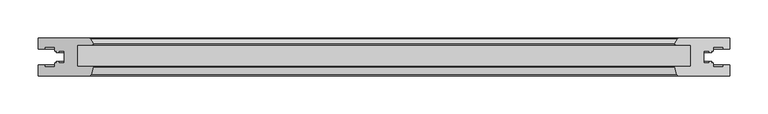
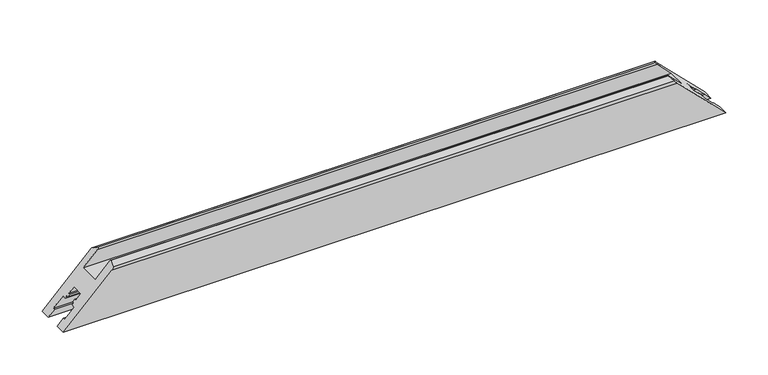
"""IFC4 building model written with IfcOpenShell, lengths in millimetres: proxy geometry, Weiku - Montante - Folha de correr 02.2.01.020 : Weiku - Montante - Folha de correr 02.2.01.020."""

from ifc_helpers import new_model, si_unit, frame, origin, place, context, project, spatial, ellipse_curve, source, transform, mapped, element, save
from ifc_brep_helpers import plane_surface, cylinder_surface, advanced_brep


def generic_models_05ec940b(model_context):
    return source(origin(), model_context, "Body", "AdvancedBrep", [
        advanced_brep(
        [(453.5, -50.0, 0.0), (387.0004942, -50.0, 66.4995058), (-387.0004942, -50.0, 66.4995058), (-453.5, -50.0, 0.0), (-453.5, -35.5, 0.0), (453.5, -35.5, 0.0), (-453.5, 0.0, 0.0), (-385.9879875, 0.0, 67.5120125), (385.9879875, 0.0, 67.5120125), (453.5, 0.0, 0.0), (-384.1027168, -47.7764571, 69.3972832), (-381.5177981, -38.1294095, 71.9822019), (-382.0007611, -37.5, 71.4992389), (-402.5007611, -37.5, 50.9992389), (-402.5007611, -9.5, 50.9992389), (-382.7141895, -9.5, 70.7858105), (-381.5520406, -7.617411, 71.9479594), (-385.0940268, -0.5518546, 68.4059732), (-453.5, -14.5, 0.0), (-444.9, -14.5, 8.6), (-444.9, -11.7, 8.6), (-431.7, -11.7, 21.8), (-431.7, -16.9, 21.8), (-429.3524152, -16.9, 24.1475848), (-429.5273926, -18.9, 23.9726074), (-426.7, -18.9, 26.8), (-426.7, -16.9, 26.8), (-419.5, -16.9, 34.0), (-419.5, -33.1, 34.0), (-426.7, -33.1, 26.8), (-426.7, -31.1, 26.8), (-429.5273926, -31.1, 23.9726074), (-429.3524152, -33.1, 24.1475848), (-431.7, -33.1, 21.8), (-431.7, -38.3, 21.8), (-444.9, -38.3, 8.6), (-444.9, -35.5, 8.6), (444.9, -35.5, 8.6), (444.9, -38.3, 8.6), (431.7, -38.3, 21.8), (431.7, -33.1, 21.8), (429.3524152, -33.1, 24.1475848), (429.5273926, -31.1, 23.9726074), (426.7, -31.1, 26.8), (426.7, -33.1, 26.8), (419.5, -33.1, 34.0), (419.5, -16.9, 34.0), (426.7, -16.9, 26.8), (426.7, -18.9, 26.8), (429.5273926, -18.9, 23.9726074), (429.3524152, -16.9, 24.1475848), (431.7, -16.9, 21.8), (431.7, -11.7, 21.8), (444.9, -11.7, 8.6), (444.9, -14.5, 8.6), (453.5, -14.5, 0.0), (385.0940268, -0.5518546, 68.4059732), (381.5520406, -7.617411, 71.9479594), (382.7141895, -9.5, 70.7858105), (402.5007611, -9.5, 50.9992389), (402.5007611, -37.5, 50.9992389), (382.0007611, -37.5, 71.4992389), (381.5177981, -38.1294095, 71.9822019), (384.1027168, -47.7764571, 69.3972832)],
        [
            (0, 1),
            (1, 2),
            (2, 3),
            (3, 0),
            (3, 4),
            (4, 5),
            (5, 0),
            (6, 7),
            (7, 8),
            (8, 9),
            (9, 6),
            (2, 10, ellipse_curve(frame((-387.0004942, -47.0, 66.4995058), z_axis=(-0.7071067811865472, 0.0, 0.7071067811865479), x_axis=(-0.7071067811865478, 0.0, -0.7071067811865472)), 4.2426407, 3.0)),
            (10, 11),
            (11, 12, ellipse_curve(frame((-382.0007611, -38.0, 71.4992389), z_axis=(-0.7071067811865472, 0.0, 0.7071067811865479), x_axis=(-0.7071067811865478, 0.0, -0.7071067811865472)), 0.7071068, 0.5)),
            (12, 13),
            (13, 14),
            (14, 15),
            (15, 16, ellipse_curve(frame((-382.7141895, -8.2, 70.7858105), z_axis=(-0.7071067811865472, 0.0, 0.7071067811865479), x_axis=(-0.7071067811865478, 0.0, -0.7071067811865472)), 1.8384776, 1.3)),
            (16, 17),
            (17, 7, ellipse_curve(frame((-385.9879875, -1.0, 67.5120125), z_axis=(-0.7071067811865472, 0.0, 0.7071067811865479), x_axis=(-0.7071067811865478, 0.0, -0.7071067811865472)), 1.4142136, 1.0)),
            (6, 18),
            (18, 19),
            (19, 20),
            (20, 21),
            (21, 22),
            (22, 23),
            (23, 24),
            (24, 25),
            (25, 26),
            (26, 27),
            (27, 28),
            (28, 29),
            (29, 30),
            (30, 31),
            (31, 32),
            (32, 33),
            (33, 34),
            (34, 35),
            (35, 36),
            (36, 4),
            (5, 37),
            (37, 38),
            (38, 39),
            (39, 40),
            (40, 41),
            (41, 42),
            (42, 43),
            (43, 44),
            (44, 45),
            (45, 46),
            (46, 47),
            (47, 48),
            (48, 49),
            (49, 50),
            (50, 51),
            (51, 52),
            (52, 53),
            (53, 54),
            (54, 55),
            (55, 9),
            (8, 56, ellipse_curve(frame((385.9879875, -1.0, 67.5120125), z_axis=(0.7071067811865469, 0.0, 0.7071067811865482), x_axis=(-0.707106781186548, 0.0, 0.7071067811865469)), 1.4142136, 1.0)),
            (56, 57),
            (57, 58, ellipse_curve(frame((382.7141895, -8.2, 70.7858105), z_axis=(0.7071067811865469, 0.0, 0.7071067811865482), x_axis=(-0.707106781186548, 0.0, 0.7071067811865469)), 1.8384776, 1.3)),
            (58, 59),
            (59, 60),
            (60, 61),
            (61, 62, ellipse_curve(frame((382.0007611, -38.0, 71.4992389), z_axis=(0.7071067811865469, 0.0, 0.7071067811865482), x_axis=(-0.707106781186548, 0.0, 0.7071067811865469)), 0.7071068, 0.5)),
            (62, 63),
            (63, 1, ellipse_curve(frame((387.0004942, -47.0, 66.4995058), z_axis=(0.7071067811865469, 0.0, 0.7071067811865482), x_axis=(-0.707106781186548, 0.0, 0.7071067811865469)), 4.2426407, 3.0)),
            (17, 56),
            (16, 57),
            (15, 58),
            (14, 59),
            (13, 60),
            (12, 61),
            (11, 62),
            (10, 63),
            (36, 37),
            (35, 38),
            (34, 39),
            (33, 40),
            (32, 41),
            (31, 42),
            (30, 43),
            (29, 44),
            (28, 45),
            (27, 46),
            (26, 47),
            (25, 48),
            (24, 49),
            (23, 50),
            (22, 51),
            (21, 52),
            (20, 53),
            (19, 54),
            (18, 55),
        ],
        [
            plane_surface(frame((-453.5, -50.0, 66.4995058), z_axis=(0.0, -1.0, 0.0), x_axis=(1.0, 0.0, 0.0))),
            plane_surface(frame((-453.5, -50.0, 0.0), z_axis=(0.0, 0.0, -1.0), x_axis=(1.0, 0.0, 0.0))),
            plane_surface(frame((-453.5, 0.0, 0.0), z_axis=(0.0, 1.0, 0.0), x_axis=(1.0, 0.0, 0.0))),
            plane_surface(frame((-481.7842712, 0.0, -28.2842712), z_axis=(-0.7071067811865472, 0.0, 0.7071067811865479), x_axis=(0.0, -1.0, 0.0))),
            plane_surface(frame((373.5, 0.0, 80.0), z_axis=(0.7071067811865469, 0.0, 0.7071067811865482), x_axis=(0.0, -1.0, 0.0))),
            cylinder_surface(frame((-453.5, -1.0, 67.5120125), z_axis=(-1.0, 0.0, 0.0), x_axis=(0.0, -1.0, 0.0)), 1.0),
            plane_surface(frame((-453.5, -0.5518546, 68.4059732), z_axis=(0.0, 0.4481453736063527, 0.8939606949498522), x_axis=(1.0, 0.0, 0.0))),
            cylinder_surface(frame((-453.5, -8.2, 70.7858105), z_axis=(-1.0, 0.0, 0.0), x_axis=(0.0, -1.0, 0.0)), 1.3),
            plane_surface(frame((-453.5, -9.5, 70.7858105), z_axis=(0.0, -1.0, 0.0), x_axis=(1.0, 0.0, 0.0))),
            plane_surface(frame((-453.5, -9.5, 50.9992389), z_axis=(0.0, 0.0, 1.0), x_axis=(1.0, 0.0, 0.0))),
            plane_surface(frame((-453.5, -37.5, 50.9992389), z_axis=(0.0, 1.0, 0.0), x_axis=(1.0, 0.0, 0.0))),
            cylinder_surface(frame((-453.5, -38.0, 71.4992389), z_axis=(-1.0, 0.0, 0.0), x_axis=(0.0, -1.0, 0.0)), 0.5),
            plane_surface(frame((-453.5, -38.1294095, 71.9822019), z_axis=(0.0, -0.2588190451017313, 0.9659258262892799), x_axis=(1.0, 0.0, 0.0))),
            cylinder_surface(frame((-453.5, -47.0, 66.4995058), z_axis=(-1.0, 0.0, 0.0), x_axis=(0.0, -1.0, 0.0)), 3.0),
            plane_surface(frame((-453.5, -35.5, 0.0), z_axis=(0.0, 1.0, 0.0), x_axis=(1.0, 0.0, 0.0))),
            plane_surface(frame((-453.5, -35.5, 8.6), z_axis=(0.0, 0.0, 1.0), x_axis=(1.0, 0.0, 0.0))),
            plane_surface(frame((-453.5, -38.3, 8.6), z_axis=(0.0, 1.0, 0.0), x_axis=(1.0, 0.0, 0.0))),
            plane_surface(frame((-453.5, -38.3, 21.8), z_axis=(0.0, 0.0, -1.0), x_axis=(1.0, 0.0, 0.0))),
            plane_surface(frame((-453.5, -33.1, 21.8), z_axis=(0.0, 1.0, 0.0), x_axis=(1.0, 0.0, 0.0))),
            plane_surface(frame((-453.5, -33.1, 24.1475848), z_axis=(0.0, -0.08715574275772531, -0.9961946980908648), x_axis=(1.0, 0.0, 0.0))),
            plane_surface(frame((-453.5, -31.1, 23.9726074), z_axis=(0.0, 1.0, 0.0), x_axis=(1.0, 0.0, 0.0))),
            plane_surface(frame((-453.5, -31.1, 26.8), z_axis=(0.0, 0.0, 1.0), x_axis=(1.0, 0.0, 0.0))),
            plane_surface(frame((-453.5, -33.1, 26.8), z_axis=(0.0, 1.0, 0.0), x_axis=(1.0, 0.0, 0.0))),
            plane_surface(frame((-453.5, -33.1, 34.0), z_axis=(0.0, 0.0, -1.0), x_axis=(1.0, 0.0, 0.0))),
            plane_surface(frame((-453.5, -16.9, 34.0), z_axis=(0.0, -1.0, 0.0), x_axis=(1.0, 0.0, 0.0))),
            plane_surface(frame((-453.5, -16.9, 26.8), z_axis=(0.0, 0.0, 1.0), x_axis=(1.0, 0.0, 0.0))),
            plane_surface(frame((-453.5, -18.9, 26.8), z_axis=(0.0, -1.0, 0.0), x_axis=(1.0, 0.0, 0.0))),
            plane_surface(frame((-453.5, -18.9, 23.9726074), z_axis=(0.0, 0.08715574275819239, -0.9961946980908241), x_axis=(1.0, 0.0, 0.0))),
            plane_surface(frame((-453.5, -16.9, 24.1475848), z_axis=(0.0, -1.0, 0.0), x_axis=(1.0, 0.0, 0.0))),
            plane_surface(frame((-453.5, -16.9, 21.8), z_axis=(0.0, 0.0, -1.0), x_axis=(1.0, 0.0, 0.0))),
            plane_surface(frame((-453.5, -11.7, 21.8), z_axis=(0.0, -1.0, 0.0), x_axis=(1.0, 0.0, 0.0))),
            plane_surface(frame((-453.5, -11.7, 8.6), z_axis=(0.0, 0.0, 1.0), x_axis=(1.0, 0.0, 0.0))),
            plane_surface(frame((-453.5, -14.5, 8.6), z_axis=(0.0, -1.0, 0.0), x_axis=(1.0, 0.0, 0.0))),
            plane_surface(frame((-453.5, -14.5, 0.0), z_axis=(0.0, 0.0, -1.0), x_axis=(1.0, 0.0, 0.0))),
        ],
        [
            (0, [[1, 2, 3, 4]]),
            (1, [[5, 6, 7, -4]]),
            (2, [[8, 9, 10, 11]]),
            (3, [[12, 13, 14, 15, 16, 17, 18, 19, 20, -8, 21, 22, 23, 24, 25, 26, 27, 28, 29, 30, 31, 32, 33, 34, 35, 36, 37, 38, 39, 40, -5, -3]]),
            (4, [[-7, 41, 42, 43, 44, 45, 46, 47, 48, 49, 50, 51, 52, 53, 54, 55, 56, 57, 58, 59, 60, -10, 61, 62, 63, 64, 65, 66, 67, 68, 69, -1]]),
            (5, [[70, -61, -9, -20]]),
            (6, [[71, -62, -70, -19]]),
            (7, [[72, -63, -71, -18]]),
            (8, [[73, -64, -72, -17]]),
            (9, [[74, -65, -73, -16]]),
            (10, [[75, -66, -74, -15]]),
            (11, [[76, -67, -75, -14]]),
            (12, [[77, -68, -76, -13]]),
            (13, [[-2, -69, -77, -12]]),
            (14, [[-40, 78, -41, -6]]),
            (15, [[79, -42, -78, -39]]),
            (16, [[80, -43, -79, -38]]),
            (17, [[81, -44, -80, -37]]),
            (18, [[82, -45, -81, -36]]),
            (19, [[83, -46, -82, -35]]),
            (20, [[84, -47, -83, -34]]),
            (21, [[85, -48, -84, -33]]),
            (22, [[86, -49, -85, -32]]),
            (23, [[87, -50, -86, -31]]),
            (24, [[88, -51, -87, -30]]),
            (25, [[89, -52, -88, -29]]),
            (26, [[90, -53, -89, -28]]),
            (27, [[91, -54, -90, -27]]),
            (28, [[92, -55, -91, -26]]),
            (29, [[93, -56, -92, -25]]),
            (30, [[94, -57, -93, -24]]),
            (31, [[95, -58, -94, -23]]),
            (32, [[-59, -95, -22, 96]]),
            (33, [[-60, -96, -21, -11]]),
        ],
    ),
    ])


if __name__ == "__main__":
    model = new_model("IFC4")
    model_context = context("Model", 3, world=origin())
    ifc_project = project(units=[si_unit("LENGTHUNIT", "METRE", prefix="MILLI")], contexts=[model_context])
    site = spatial("IfcSite", under=ifc_project)
    building = spatial("IfcBuilding", under=site)
    placement = place(None, origin())
    generic_models_shape = generic_models_05ec940b(model_context)
    element("IfcBuildingElementProxy", 1, Name="Weiku - Montante - Folha de correr 02.2.01.020 : Weiku - Montante - Folha de correr 02.2.01.020", ObjectType="Weiku - Montante - Folha de correr 02.2.01.020 : Weiku - Montante - Folha de correr 02.2.01.020", at=placement, inside=building, context=model_context, shape_type="MappedRepresentation", body=[
        mapped(generic_models_shape, transform((0.0, 0.0, 0.0), x_axis=(1.0, 0.0, 0.0), y_axis=(0.0, 1.0, 0.0), z_axis=(0.0, 0.0, 1.0))),
    ])
    save(model, "model.ifc")
